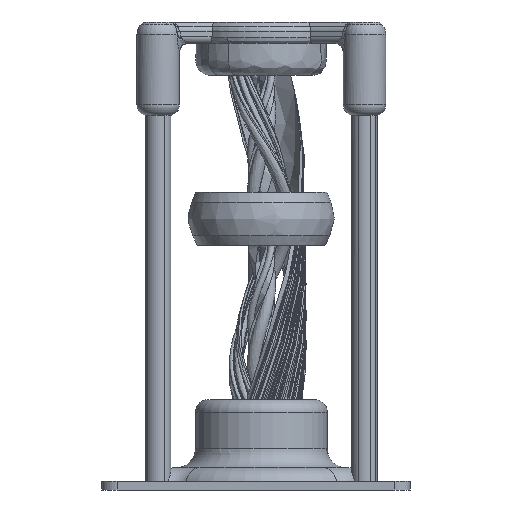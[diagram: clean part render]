
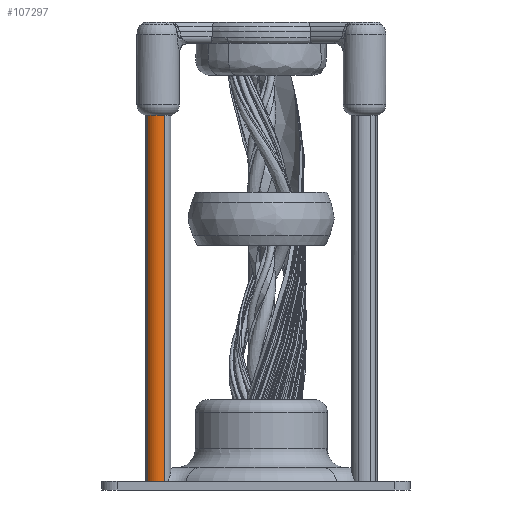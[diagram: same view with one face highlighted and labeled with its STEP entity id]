
A CAD part, front view. The second image highlights one B-rep face of the part: STEP entity #107297.
In plain terms, the highlighted cylindrical face has radius 6 mm (diameter 12 mm), a partial arc.
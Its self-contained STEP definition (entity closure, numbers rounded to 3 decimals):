
#106295=CARTESIAN_POINT('',(-45.497,-33.196,0.5));
#106296=VERTEX_POINT('',#106295);
#106304=CARTESIAN_POINT('',(-53.694,-31.,0.5));
#106305=VERTEX_POINT('',#106304);
#106306=CARTESIAN_POINT('',(-48.497,-28.,0.5));
#106307=DIRECTION('',(0.,0.,-1.));
#106308=DIRECTION('',(-1.,0.,0.));
#106309=AXIS2_PLACEMENT_3D('',#106306,#106307,#106308);
#106310=CIRCLE('',#106309,6.);
#106311=EDGE_CURVE('',#106296,#106305,#106310,.T.);
#106842=CARTESIAN_POINT('',(-45.497,-33.196,180.5));
#106843=VERTEX_POINT('',#106842);
#106871=CARTESIAN_POINT('',(-53.694,-31.,180.5));
#106872=VERTEX_POINT('',#106871);
#106880=CARTESIAN_POINT('',(-48.497,-28.,180.5));
#106881=DIRECTION('',(-0.,-0.,1.));
#106882=DIRECTION('',(-1.,0.,0.));
#106883=AXIS2_PLACEMENT_3D('',#106880,#106881,#106882);
#106884=CIRCLE('',#106883,6.);
#106885=EDGE_CURVE('',#106872,#106843,#106884,.T.);
#107144=CARTESIAN_POINT('',(-45.497,-33.196,180.5));
#107145=DIRECTION('',(0.,0.,-1.));
#107146=VECTOR('',#107145,180.);
#107147=LINE('',#107144,#107146);
#107148=EDGE_CURVE('',#106843,#106296,#107147,.T.);
#107281=CARTESIAN_POINT('',(-48.497,-28.,155.5));
#107282=DIRECTION('',(0.,0.,-1.));
#107283=DIRECTION('',(-1.,0.,0.));
#107284=AXIS2_PLACEMENT_3D('',#107281,#107282,#107283);
#107285=CYLINDRICAL_SURFACE('',#107284,6.);
#107286=ORIENTED_EDGE('',*,*,#106885,.F.);
#107287=CARTESIAN_POINT('',(-53.694,-31.,180.5));
#107288=DIRECTION('',(0.,0.,-1.));
#107289=VECTOR('',#107288,180.);
#107290=LINE('',#107287,#107289);
#107291=EDGE_CURVE('',#106872,#106305,#107290,.T.);
#107292=ORIENTED_EDGE('',*,*,#107291,.T.);
#107293=ORIENTED_EDGE('',*,*,#106311,.F.);
#107294=ORIENTED_EDGE('',*,*,#107148,.F.);
#107295=EDGE_LOOP('',(#107286,#107292,#107293,#107294));
#107296=FACE_BOUND('',#107295,.T.);
#107297=ADVANCED_FACE('',(#107296),#107285,.T.);
